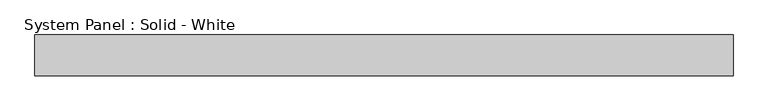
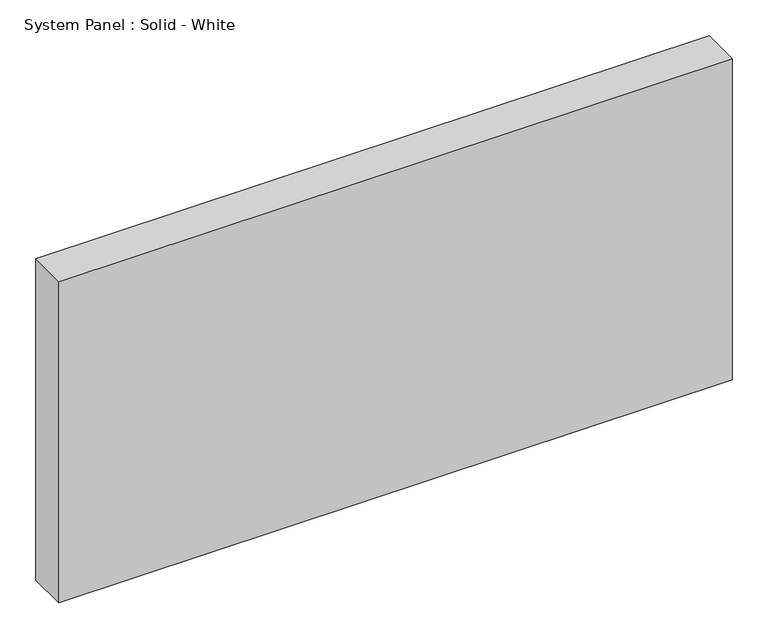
"""IFC4 building model written with IfcOpenShell, lengths in millimetres: plate geometry, System Panel : Solid - White."""

import ifcopenshell
import ifcopenshell.guid

model = None  # the IFC model being written
_history = None  # IfcOwnerHistory: only IFC2X3 demands one
_inside = {}  # id of a spatial element -> (the spatial element, [elements in it])
_under = {}  # id of a project, library or spatial element -> (it, [spatial elements below it])
_declared = {}  # id of a project -> (the project, [libraries it declares])
_typed = {}  # id of a type object -> (the type object, [elements of that type])
_made_of = {}  # id of a material, layer set ... -> (it, [elements and type objects made of it])


def new_model(schema):
    """Start an empty IFC model of exactly this schema.

    Asked for "IFC4X3", IfcOpenShell would pick the latest addendum, in which some entities
    have other attributes; the version numbers below select the first issue.
    IFC2X3 requires an IfcOwnerHistory on every rooted entity: one is made here for all.
    """
    global model, _history
    if schema == "IFC4X3":
        model = ifcopenshell.file(schema_version=(4, 3, 0, 0))
    else:
        model = ifcopenshell.file(schema=schema)
    _inside.clear()
    _under.clear()
    _declared.clear()
    _typed.clear()
    _made_of.clear()
    _history = None
    if model.schema == "IFC2X3":
        org = make("IfcOrganization", Name="unknown")
        user = make(
            "IfcPersonAndOrganization",
            ThePerson=make("IfcPerson", FamilyName="unknown"),
            TheOrganization=org,
        )
        app = make(
            "IfcApplication",
            ApplicationDeveloper=org,
            Version="unknown",
            ApplicationFullName="unknown",
            ApplicationIdentifier="unknown",
        )
        _history = make(
            "IfcOwnerHistory",
            OwningUser=user,
            OwningApplication=app,
            ChangeAction="ADDED",
            CreationDate=0,
        )
    return model


def make(cls, **values):
    """One entity of the class cls with the attributes given. An attribute that is None is left unset."""
    return model.create_entity(
        cls, **{name: value for name, value in values.items() if value is not None}
    )


def rooted(cls, **values):
    """An entity with a GlobalId (a new one), such as an element, a storey or a relation."""
    return make(cls, GlobalId=ifcopenshell.guid.new(), OwnerHistory=_history, **values)


def si_unit(unit_type, name, prefix=None):
    """IfcSIUnit, for example si_unit("LENGTHUNIT", "METRE", prefix="MILLI")."""
    return make("IfcSIUnit", UnitType=unit_type, Prefix=prefix, Name=name)


def assignment(units):
    """IfcUnitAssignment: the units of a project."""
    return None if units is None else make("IfcUnitAssignment", Units=units)


def point(xyz):
    """IfcCartesianPoint."""
    return None if xyz is None else make("IfcCartesianPoint", Coordinates=xyz)


def direction(xyz):
    """IfcDirection."""
    return None if xyz is None else make("IfcDirection", DirectionRatios=xyz)


def frame(location, z_axis=None, x_axis=None):
    """IfcAxis2Placement3D, a coordinate frame: its origin and axes. An axis left out is left unset."""
    return make(
        "IfcAxis2Placement3D",
        Location=point(location),
        Axis=direction(z_axis),
        RefDirection=direction(x_axis),
    )


def origin():
    """The frame at (0, 0, 0) with its axes left unset."""
    return frame((0.0, 0.0, 0.0))


def origin_with_axes():
    """The frame at (0, 0, 0) with the z axis (0, 0, 1) and the x axis (1, 0, 0) written out."""
    return frame((0.0, 0.0, 0.0), z_axis=(0.0, 0.0, 1.0), x_axis=(1.0, 0.0, 0.0))


def place(relative_to, where):
    """IfcLocalPlacement: puts the frame where relative to a parent placement (None: the world)."""
    return make(
        "IfcLocalPlacement", PlacementRelTo=relative_to, RelativePlacement=where
    )


def context(
    kind, dimensions, precision=None, world=None, true_north=None, identifier=None
):
    """IfcGeometricRepresentationContext, for example the 3D "Model" context."""
    return make(
        "IfcGeometricRepresentationContext",
        ContextIdentifier=identifier,
        ContextType=kind,
        CoordinateSpaceDimension=dimensions,
        Precision=precision,
        WorldCoordinateSystem=world,
        TrueNorth=true_north,
    )


def project(units=None, contexts=None):
    """IfcProject with its units and contexts."""
    return rooted(
        "IfcProject",
        Name="project",
        RepresentationContexts=contexts,
        UnitsInContext=assignment(units),
    )


def spatial(cls, under=None, at=None, **own):
    """A site, building, storey or space (cls), placed at a placement, below another one or the project."""
    s = rooted(cls, ObjectPlacement=at, **own)
    if under is not None:
        _under.setdefault(under.id(), (under, []))[1].append(s)
    return s


def polyline(points):
    """IfcPolyline through the points."""
    return make("IfcPolyline", Points=[point(p) for p in points])


def outline(outer, holes=None, kind="AREA"):
    """IfcArbitraryClosedProfileDef: a profile drawn as a closed curve; with holes, ...WithVoids."""
    if holes is None:
        return make("IfcArbitraryClosedProfileDef", ProfileType=kind, OuterCurve=outer)
    return make(
        "IfcArbitraryProfileDefWithVoids",
        ProfileType=kind,
        OuterCurve=outer,
        InnerCurves=holes,
    )


def extrude(swept, where, along, depth):
    """IfcExtrudedAreaSolid: the profile swept, set in the frame where, extruded along a direction by depth."""
    return make(
        "IfcExtrudedAreaSolid",
        SweptArea=swept,
        Position=where,
        ExtrudedDirection=direction(along),
        Depth=depth,
    )


def shape(context_of_items, identifier, shape_type, items):
    """IfcShapeRepresentation: the items that make up one representation, for example the "Body"."""
    return make(
        "IfcShapeRepresentation",
        ContextOfItems=context_of_items,
        RepresentationIdentifier=identifier,
        RepresentationType=shape_type,
        Items=items,
    )


def source(mapping_origin, context_of_items, identifier, shape_type, items):
    """IfcRepresentationMap: a shape defined once, which mapped items show again and again."""
    return make(
        "IfcRepresentationMap",
        MappingOrigin=mapping_origin,
        MappedRepresentation=shape(context_of_items, identifier, shape_type, items),
    )


def transform(
    local_origin,
    x_axis=None,
    y_axis=None,
    z_axis=None,
    scale=None,
    scale2=None,
    scale3=None,
    uniform=True,
):
    """IfcCartesianTransformationOperator3D, or its non-uniform kind. x_axis, y_axis, z_axis: its Axis1, 2, 3."""
    if uniform:
        return make(
            "IfcCartesianTransformationOperator3D",
            Axis1=direction(x_axis),
            Axis2=direction(y_axis),
            LocalOrigin=point(local_origin),
            Scale=scale,
            Axis3=direction(z_axis),
        )
    return make(
        "IfcCartesianTransformationOperator3DnonUniform",
        Axis1=direction(x_axis),
        Axis2=direction(y_axis),
        LocalOrigin=point(local_origin),
        Scale=scale,
        Axis3=direction(z_axis),
        Scale2=scale2,
        Scale3=scale3,
    )


def mapped(mapping_source, mapping_target):
    """IfcMappedItem: shows the shape of a source again, moved by a transform."""
    return make(
        "IfcMappedItem", MappingSource=mapping_source, MappingTarget=mapping_target
    )


def made_of(thing, what):
    """Note that an element or type object is made of a material, layer set ...; save() writes the relation."""
    if what is not None:
        _made_of.setdefault(what.id(), (what, []))[1].append(thing)
    return thing


def element(
    cls,
    number,
    at=None,
    inside=None,
    cuts=None,
    type_object=None,
    material=None,
    context=None,
    identifier="Body",
    shape_type=None,
    held_by="IfcProductDefinitionShape",
    body=None,
    shapes=None,
    **own,
):
    """One element of the class cls, such as IfcWall. Its Tag is "e" and its number.

    at: its placement. inside: the storey or other place that contains it. cuts: it is an
    opening in that element (IfcRelVoidsElement). A single representation is given by context,
    identifier, shape_type and body (its items); several are given by shapes. held_by: the class
    of the entity that holds the representations. save() writes the other relations.
    """
    e = rooted(cls, Tag="e%d" % number, ObjectPlacement=at, **own)
    if body is not None:
        shapes = [shape(context, identifier, shape_type, body)]
    if shapes is not None:
        e.Representation = make(held_by, Representations=shapes)
    if inside is not None:
        _inside.setdefault(inside.id(), (inside, []))[1].append(e)
    if cuts is not None:
        rooted(
            "IfcRelVoidsElement", RelatingBuildingElement=cuts, RelatedOpeningElement=e
        )
    if type_object is not None:
        _typed.setdefault(type_object.id(), (type_object, []))[1].append(e)
    return made_of(e, material)


def aggregate(whole, parts):
    """IfcRelAggregates: a whole, such as a stair, and the parts it consists of."""
    return rooted("IfcRelAggregates", RelatingObject=whole, RelatedObjects=parts)


def save(model, path):
    """Write the relations noted so far, then the file.

    IfcRelAggregates (storeys below a building ...), IfcRelContainedInSpatialStructure (elements
    in a storey), IfcRelDefinesByType, IfcRelAssociatesMaterial and IfcRelDeclares: one each for
    every whole, place, type object, material and project.
    """
    for whole, parts in _under.values():
        aggregate(whole, parts)
    for where, things in _inside.values():
        rooted(
            "IfcRelContainedInSpatialStructure",
            RelatedElements=things,
            RelatingStructure=where,
        )
    for kind, things in _typed.values():
        rooted("IfcRelDefinesByType", RelatedObjects=things, RelatingType=kind)
    for what, things in _made_of.values():
        rooted("IfcRelAssociatesMaterial", RelatedObjects=things, RelatingMaterial=what)
    for by, libraries in _declared.values():
        rooted("IfcRelDeclares", RelatingContext=by, RelatedDefinitions=libraries)
    model.write(path)


def system_panel_solid_white_af15567d(model_context):
    return source(origin(), model_context, "Body", "SweptSolid", [
        extrude(outline(polyline([(541.655, -44.45), (-541.655, -44.45), (-541.655, 19.05), (541.655, 19.05), (541.655, -44.45)])), origin_with_axes(), (0.0, 0.0, 1.0), 546.1),
    ])


if __name__ == "__main__":
    model = new_model("IFC4")
    model_context = context("Model", 3, world=origin())
    ifc_project = project(units=[si_unit("LENGTHUNIT", "METRE", prefix="MILLI")], contexts=[model_context])
    site = spatial("IfcSite", under=ifc_project)
    building = spatial("IfcBuilding", under=site)
    placement = place(None, origin())
    system_panel_solid_white_shape = system_panel_solid_white_af15567d(model_context)
    element("IfcPlate", 1, ObjectType="System Panel : Solid - White", at=placement, inside=building, context=model_context, shape_type="MappedRepresentation", body=[
        mapped(system_panel_solid_white_shape, transform((0.0, 0.0, 0.0), x_axis=(1.0, 0.0, 0.0), y_axis=(0.0, 1.0, 0.0), z_axis=(0.0, 0.0, 1.0))),
    ])
    save(model, "model.ifc")
